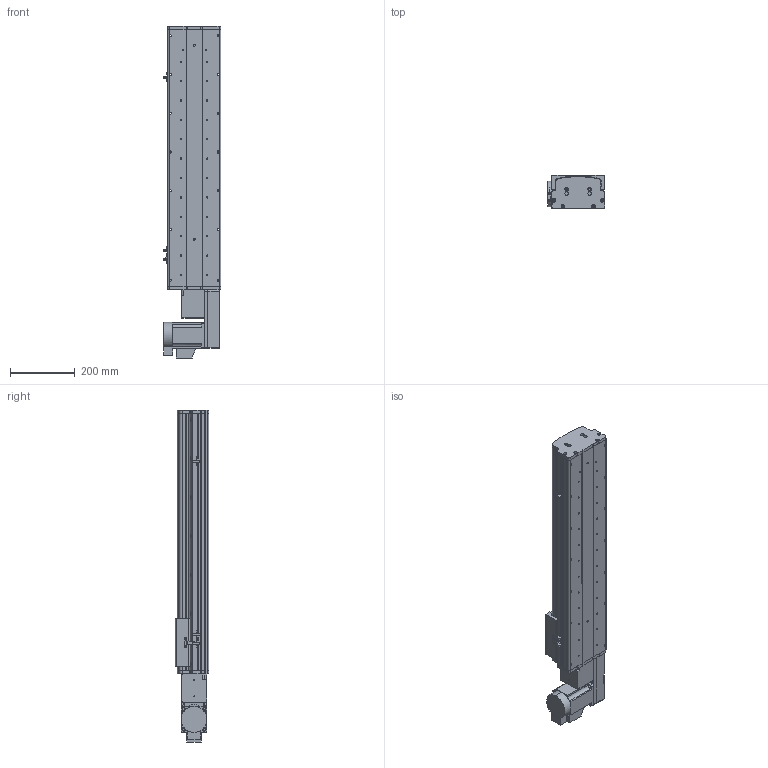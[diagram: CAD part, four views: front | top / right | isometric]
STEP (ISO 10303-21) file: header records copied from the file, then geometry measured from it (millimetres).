
FILE_DESCRIPTION (( 'STEP AP214' ), '1' );
FILE_NAME ('KSD165B-S550-MRB-CM.STEP', '2017-10-16T08:46:07', ( '微软用户' ), ( '微软中国' ), 'SwSTEP 2.0', 'SolidWorks 2014', '' );
FILE_SCHEMA (( 'AUTOMOTIVE_DESIGN' ));
Length unit declared in the file: millimetre
Products named in the file (17): KSD165模组-后端板1-同步带; KSD165模组-同步带滑动座-最新版; KSD165B-S550-MRB-CM; HTPA26S5M250-A-H8 750W萇儂蚚; HTPA26S5M250-A-H8 400W萇儂蚚 ; 130宽模组马达安装板连板左右折同步带; 130宽模组保护罩上下左右折-同步带; KSD165模组-同步带防尘盖1-550行程-最新版; KSD165模组同步带底板-550行程-最新; 拸秶雄ん750W侜督萇儂; 165宽马达安装板同步带右; U倰嫖萇假蚾璃; U倰嫖萇EEㄜSX672; 覜茼え68遵圉猾敕; KSD165模组-同步带-防撞垫2; KSD165模组同步带-防撞垫1; KSD165耀郪-ヶ傷啣1-肮祭湍
Assembly tree (20 placements, depth 2):
  KSD165B-S550-MRB-CM
    KSD165模组-同步带滑动座-最新版
    KSD165模组-后端板1-同步带
    KSD165耀郪-ヶ傷啣1-肮祭湍
    KSD165模组同步带-防撞垫1
    KSD165模组-同步带-防撞垫2
    覜茼え68遵圉猾敕
    U倰嫖萇EEㄜSX672  x3
    U倰嫖萇假蚾璃  x3
    165宽马达安装板同步带右
    拸秶雄ん750W侜督萇儂
    KSD165模组同步带底板-550行程-最新
    KSD165模组-同步带防尘盖1-550行程-最新版
    130宽模组保护罩上下左右折-同步带
    130宽模组马达安装板连板左右折同步带
    HTPA26S5M250-A-H8 400W萇儂蚚 
    HTPA26S5M250-A-H8 750W萇儂蚚
Bounding box: 178.7 x 104 x 1027.5 mm (x, y, z)
Volume: 5887263.9 mm3; surface area: 1361888.1 mm2
Topology: 21 solids, 21 shells, 1903 faces, 5364 edges, 3500 vertices
Faces by surface type: cylinder 1211, plane 580, cone 112
Entity records: 61252 total; most frequent: CARTESIAN_POINT 12556, DIRECTION 10112, ORIENTED_EDGE 9388, EDGE_CURVE 4694, AXIS2_PLACEMENT_3D 3958, VERTEX_POINT 3092, CIRCLE 2252, VECTOR 2196
